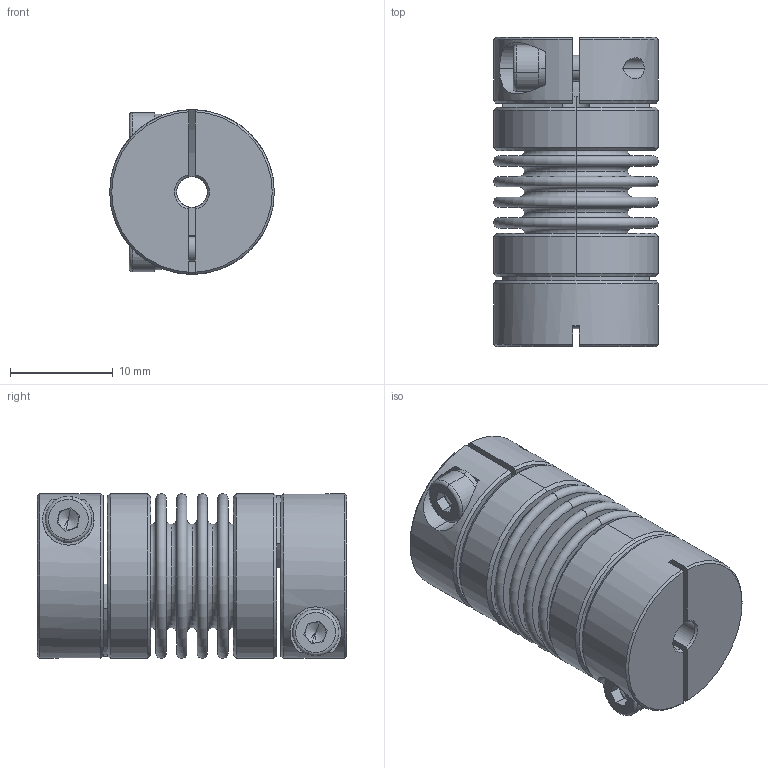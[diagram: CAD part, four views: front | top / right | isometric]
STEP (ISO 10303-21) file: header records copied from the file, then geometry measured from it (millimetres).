
FILE_DESCRIPTION (( 'STEP AP203' ), '1' );
FILE_NAME ('LB-B-D16L30-3-3.STEP', '2021-11-04T01:08:32', ( '' ), ( '' ), 'SwSTEP 2.0', 'SolidWorks 2018', '' );
FILE_SCHEMA (( 'CONFIG_CONTROL_DESIGN' ));
Length unit declared in the file: millimetre
Products named in the file (2): 零件1^LB-B-D16L30 波纹管联轴器-组装体; LB-B-D16L30-3-3
Assembly tree (1 placements, depth 2):
  LB-B-D16L30-3-3
    零件1^LB-B-D16L30 波纹管联轴器-组装体
Bounding box: 16 x 30.04 x 16 mm (x, y, z)
Volume: 3494.4 mm3; surface area: 6488.9 mm2
Topology: 1 solids, 1 shells, 254 faces, 586 edges, 362 vertices
Faces by surface type: plane 86, torus 68, cylinder 66, cone 34
Entity records: 7660 total; most frequent: CARTESIAN_POINT 1472, DIRECTION 1420, ORIENTED_EDGE 1164, AXIS2_PLACEMENT_3D 622, EDGE_CURVE 582, CIRCLE 364, VERTEX_POINT 362, EDGE_LOOP 296
